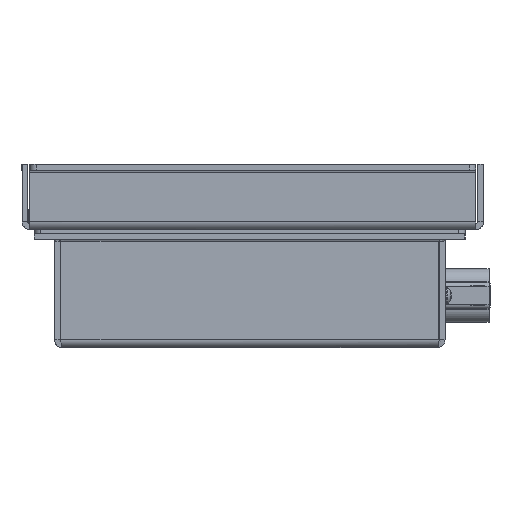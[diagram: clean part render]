
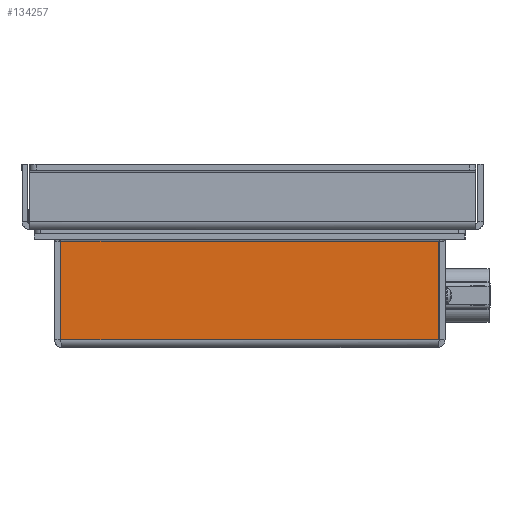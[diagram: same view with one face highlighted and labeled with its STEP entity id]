
A CAD part, left-side view. The second image highlights one B-rep face of the part: STEP entity #134257.
In plain terms, the highlighted planar face has unit normal (-1, 0, 0) as drawn and (1, 0, 0) by its records, which use the part's own axes.
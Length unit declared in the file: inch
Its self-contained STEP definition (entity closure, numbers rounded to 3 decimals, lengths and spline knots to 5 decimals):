
#5363 = VERTEX_POINT ( 'NONE', #174848 ) ;
#9905 = AXIS2_PLACEMENT_3D ( 'NONE', #86055, #131026, #42982 ) ;
#13730 = EDGE_CURVE ( 'NONE', #81769, #5363, #34382, .T. ) ;
#15922 = EDGE_CURVE ( 'NONE', #179628, #5363, #70043, .T. ) ;
#26335 = CARTESIAN_POINT ( 'NONE',  ( 3.87, -2.51355, 0.1825 ) ) ;
#34382 = LINE ( 'NONE', #105563, #186392 ) ;
#40775 = CARTESIAN_POINT ( 'NONE',  ( 3.87, -2.51355, 0.1825 ) ) ;
#41140 = DIRECTION ( 'NONE',  ( 0., 0., 1. ) ) ;
#42982 = DIRECTION ( 'NONE',  ( 0., 0., -1. ) ) ;
#46313 = EDGE_CURVE ( 'NONE', #91966, #179628, #49714, .T. ) ;
#49714 = LINE ( 'NONE', #92927, #127985 ) ;
#51133 = LINE ( 'NONE', #26335, #90199 ) ;
#70043 = LINE ( 'NONE', #142059, #143696 ) ;
#81769 = VERTEX_POINT ( 'NONE', #40775 ) ;
#82444 = CARTESIAN_POINT ( 'NONE',  ( 3.87, -2.51355, 1.6925 ) ) ;
#86055 = CARTESIAN_POINT ( 'NONE',  ( 3.87, -39.99062, 0.1825 ) ) ;
#90199 = VECTOR ( 'NONE', #41140, 39.37008 ) ;
#90946 = EDGE_LOOP ( 'NONE', ( #114061, #178708, #140011, #189956 ) ) ;
#91966 = VERTEX_POINT ( 'NONE', #82444 ) ;
#92927 = CARTESIAN_POINT ( 'NONE',  ( 3.87, -39.99062, 1.6925 ) ) ;
#101503 = PLANE ( 'NONE',  #9905 ) ;
#105563 = CARTESIAN_POINT ( 'NONE',  ( 3.87, -39.99062, 0.1825 ) ) ;
#114061 = ORIENTED_EDGE ( 'NONE', *, *, #15922, .F. ) ;
#120019 = DIRECTION ( 'NONE',  ( 0., 1., 0. ) ) ;
#127985 = VECTOR ( 'NONE', #120019, 39.37008 ) ;
#131026 = DIRECTION ( 'NONE',  ( -1., 0., 0. ) ) ;
#134257 = ADVANCED_FACE ( 'NONE', ( #147577 ), #101503, .F. ) ;
#138719 = EDGE_CURVE ( 'NONE', #81769, #91966, #51133, .T. ) ;
#140011 = ORIENTED_EDGE ( 'NONE', *, *, #138719, .F. ) ;
#141616 = CARTESIAN_POINT ( 'NONE',  ( 3.87, 3.28231, 1.6925 ) ) ;
#142059 = CARTESIAN_POINT ( 'NONE',  ( 3.87, 3.28231, 0.1825 ) ) ;
#143696 = VECTOR ( 'NONE', #156913, 39.37008 ) ;
#147577 = FACE_OUTER_BOUND ( 'NONE', #90946, .T. ) ;
#156913 = DIRECTION ( 'NONE',  ( 0., 0., -1. ) ) ;
#174848 = CARTESIAN_POINT ( 'NONE',  ( 3.87, 3.28231, 0.1825 ) ) ;
#178708 = ORIENTED_EDGE ( 'NONE', *, *, #46313, .F. ) ;
#179552 = DIRECTION ( 'NONE',  ( 0., 1., 0. ) ) ;
#179628 = VERTEX_POINT ( 'NONE', #141616 ) ;
#186392 = VECTOR ( 'NONE', #179552, 39.37008 ) ;
#189956 = ORIENTED_EDGE ( 'NONE', *, *, #13730, .T. ) ;
